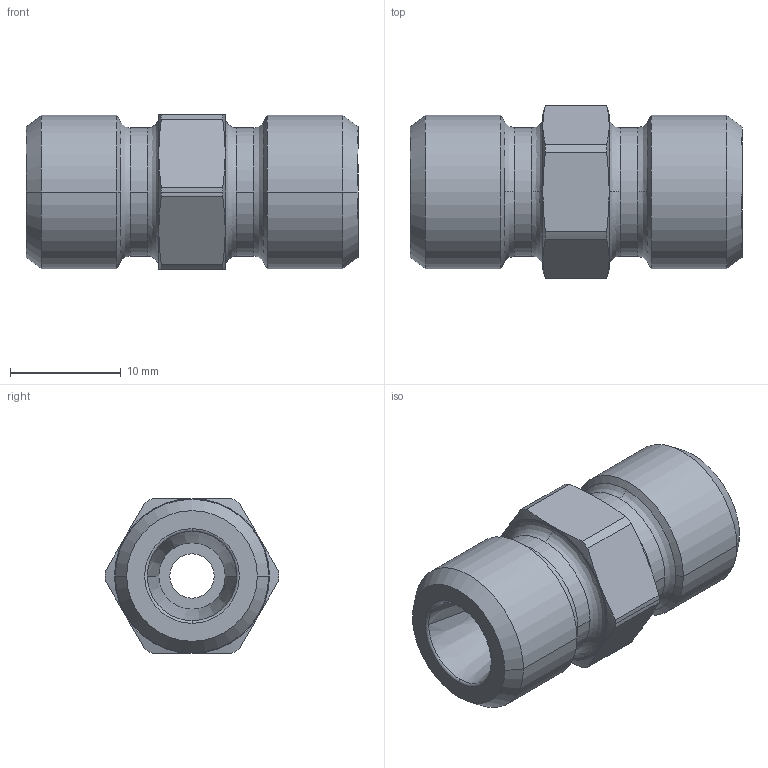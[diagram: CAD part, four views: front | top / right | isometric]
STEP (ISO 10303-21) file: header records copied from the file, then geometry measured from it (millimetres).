
FILE_DESCRIPTION((''),'2;1');
FILE_NAME('103514.stp','2007-10-31T11:33:32',(''),(''),'AutoCAD STEP 2000i','AutoCAD 2000i',', , ');
FILE_SCHEMA(('CONFIG_CONTROL_DESIGN'));
Length unit declared in the file: millimetre
Products named in the file (2): 103514.0; CHIAVE SMUSSATA#0
Assembly tree (1 placements, depth 2):
  103514.0
    CHIAVE SMUSSATA#0
Bounding box: 30 x 15.7 x 14 mm (x, y, z)
Volume: 3560.6 mm3; surface area: 2082.1 mm2
Topology: 1 solids, 1 shells, 70 faces, 172 edges, 108 vertices
Faces by surface type: cone 24, cylinder 22, plane 12, bspline 8, torus 4
Entity records: 2513 total; most frequent: CARTESIAN_POINT 752, DIRECTION 384, ORIENTED_EDGE 344, AXIS2_PLACEMENT_3D 172, EDGE_CURVE 172, VERTEX_POINT 108, CIRCLE 108, EDGE_LOOP 76
